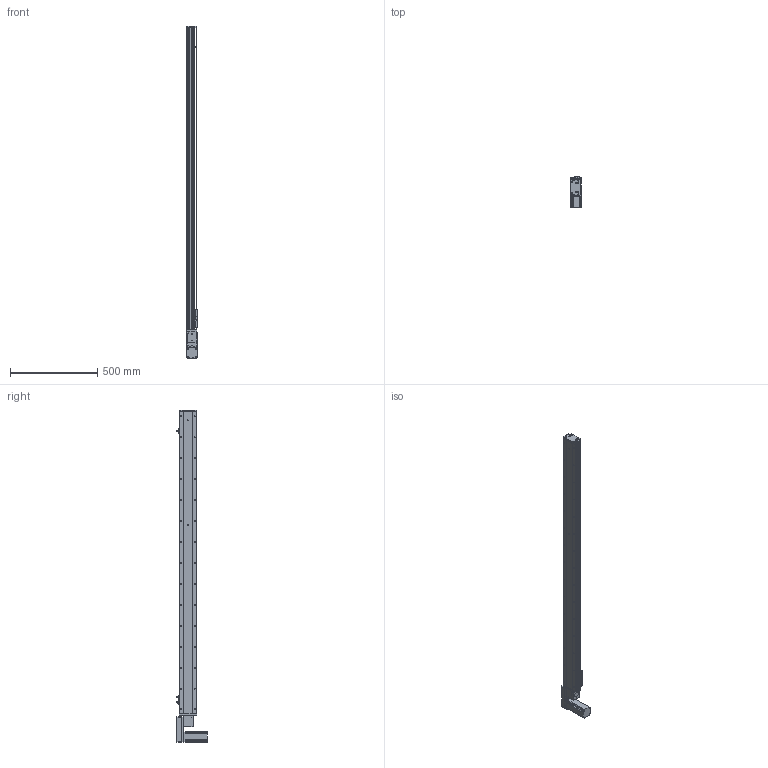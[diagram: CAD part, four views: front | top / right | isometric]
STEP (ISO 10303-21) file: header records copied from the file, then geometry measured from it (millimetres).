
FILE_DESCRIPTION (( 'STEP AP214' ), '1' );
FILE_NAME ('KSD100B-S1550-MLB-CM.STEP', '2019-11-09T06:43:28', ( '微软用户' ), ( '微软中国' ), 'SwSTEP 2.0', 'SolidWorks 2014', '' );
FILE_SCHEMA (( 'AUTOMOTIVE_DESIGN' ));
Length unit declared in the file: millimetre
Products named in the file (12): 悵誘欶奻狟殏; 100宽马达安装板连板上下折丝杆同步带; 台达ECMA－C20604AS伺服电机; U倰嫖萇EEㄜSX672; 覜茼え100遵圉猾敕; 100宽防尘板1550行程-同步带; 100宽马达安装板同步带左; 100宽同步带安装板半封闭; 100宽马达安装板同步带; 100遵傷啣肮祭湍; 100宽底板半封闭同步带1550行程; KSD100B-S1550-MLB-CM
Assembly tree (13 placements, depth 2):
  KSD100B-S1550-MLB-CM
    100宽底板半封闭同步带1550行程
    100遵傷啣肮祭湍
    100宽马达安装板同步带
    100宽同步带安装板半封闭
    100宽马达安装板同步带左
    100宽防尘板1550行程-同步带
    覜茼え100遵圉猾敕
    U倰嫖萇EEㄜSX672  x3
    台达ECMA－C20604AS伺服电机
    100宽马达安装板连板上下折丝杆同步带
    悵誘欶奻狟殏
Bounding box: 61 x 174.7 x 1903 mm (x, y, z)
Volume: 3839667 mm3; surface area: 1306555.4 mm2
Topology: 14 solids, 14 shells, 1631 faces, 4622 edges, 2917 vertices
Faces by surface type: cylinder 845, plane 611, cone 175
Entity records: 59579 total; most frequent: CARTESIAN_POINT 12596, DIRECTION 8058, ORIENTED_EDGE 7800, EDGE_CURVE 3900, AXIS2_PLACEMENT_3D 2965, VERTEX_POINT 2541, VECTOR 2128, LINE 2128
